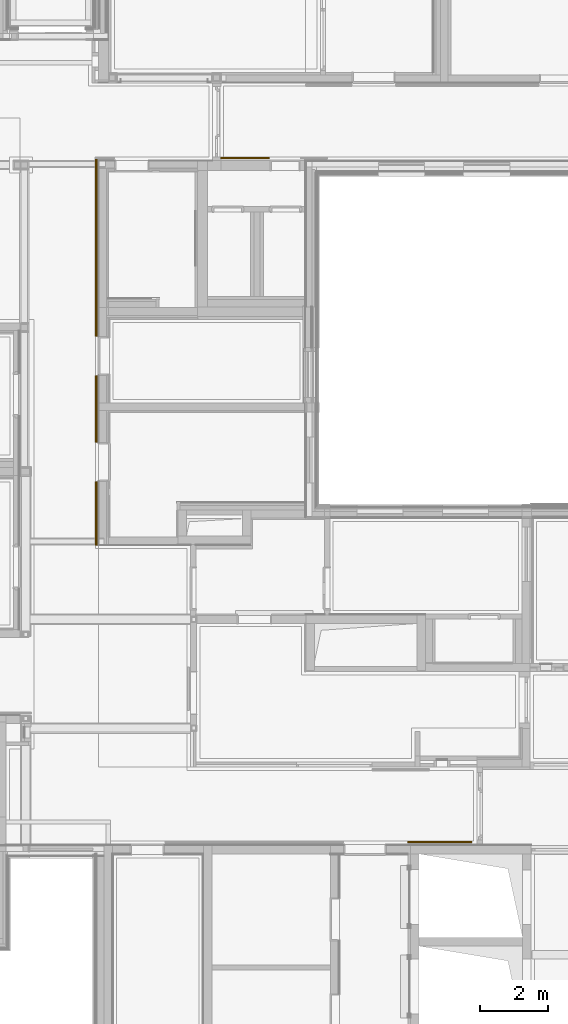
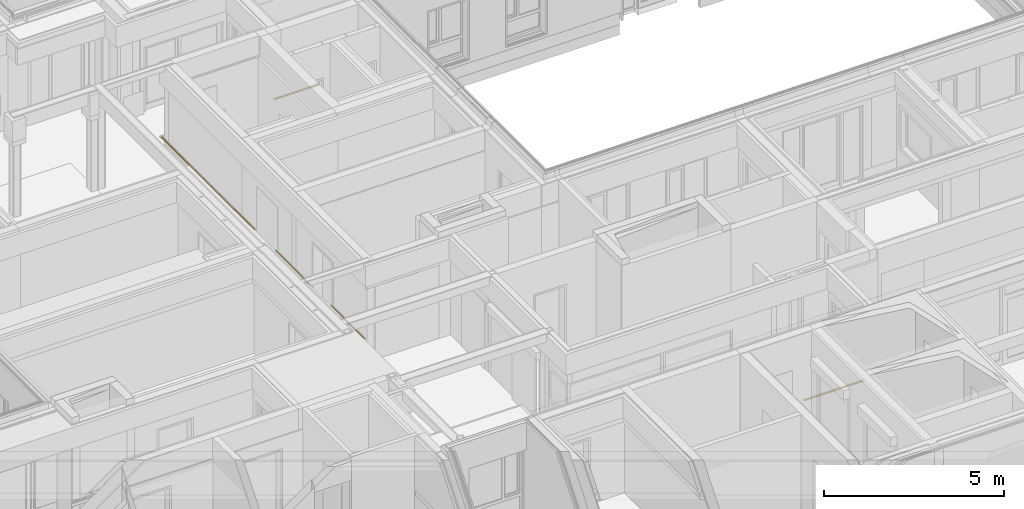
# One storey, part 197 of 207: 5 railings, 5 elements without a shape of their own.
"""IFC4 building model written with IfcOpenShell, lengths in metres."""

from ifc_helpers import new_model, entity, si_unit, converted_unit, derived_unit, frame, origin, place, context, subcontext, project, spatial, faceted_brep, material, element, aggregate, save


model = new_model("IFC4")

# Units and contexts
model_context = context("Model", 3, precision=1e-05, world=origin())
body_context = subcontext(model_context, "Body", "Model", "MODEL_VIEW")
ifc_project = project(units=[si_unit("LENGTHUNIT", "METRE"), si_unit("AREAUNIT", "SQUARE_METRE"), si_unit("VOLUMEUNIT", "CUBIC_METRE"), si_unit("MASSUNIT", "GRAM", prefix="KILO"), converted_unit("PLANEANGLEUNIT", "DEGREE", entity("IfcPlaneAngleMeasure", 0.0174532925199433), si_unit("PLANEANGLEUNIT", "RADIAN"), dimensions=[0, 0, 0, 0, 0, 0, 0]), derived_unit("THERMALTRANSMITTANCEUNIT", [(si_unit("POWERUNIT", "WATT"), 1), (si_unit("THERMODYNAMICTEMPERATUREUNIT", "KELVIN"), -1), (si_unit("LENGTHUNIT", "METRE"), -2)]), derived_unit("VOLUMETRICFLOWRATEUNIT", [(si_unit("LENGTHUNIT", "METRE"), 3), (converted_unit("TIMEUNIT", "hour", entity("IfcTimeMeasure", 3600.0), si_unit("TIMEUNIT", "SECOND"), dimensions=[0, 0, 1, 0, 0, 0, 0]), -1), (si_unit("LENGTHUNIT", "METRE"), -1)])], contexts=[model_context])

# Site, building, storey
site_placement = place(None, origin())
site = spatial("IfcSite", under=ifc_project, at=site_placement, Name="Psychiatrie Neubau Wunstorf", CompositionType="ELEMENT")
building_placement = place(site_placement, origin())
building = spatial("IfcBuilding", under=site, at=building_placement, Name="Neubau H2 Stationsgebäude", CompositionType="ELEMENT")
storey_placement = place(building_placement, frame((0.0, 0.0, -0.2)))
storey = spatial("IfcBuildingStorey", under=building, at=storey_placement, Name="H2 Ebene 0", CompositionType="ELEMENT", Elevation=-0.2)

# Assembly, railing
assembly_1_placement = place(storey_placement, frame((0.0, 0.0, 0.2)))
assembly_1 = element("IfcElementAssembly", 1, at=assembly_1_placement, inside=storey, Name="Geländer+Abstand", PredefinedType="NOTDEFINED")
ifc_material_1 = material(Name="Holz")
railing_1_placement = place(assembly_1_placement, frame((46.9300048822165, 0.598999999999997, 0.8)))
railing_1 = element("IfcRailing", 2, at=railing_1_placement, material=ifc_material_1, context=body_context, shape_type="Brep", body=[
    faceted_brep([(1.88469511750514, 0.000103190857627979, 0.025), (1.88469511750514, 0.000481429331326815, 0.0293232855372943), (1.88469511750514, 0.00160465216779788, 0.0335152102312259), (1.88469511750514, 0.00343873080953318, 0.0374484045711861), (1.88469511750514, 0.00592793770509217, 0.0410033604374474), (1.88469511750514, 0.00899663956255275, 0.0440720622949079), (1.88469511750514, 0.012551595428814, 0.0465612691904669), (1.88469511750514, 0.0164847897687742, 0.0483953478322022), (1.88469511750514, 0.0206767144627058, 0.0495185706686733), (1.88469511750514, 0.0250000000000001, 0.0498968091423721), (1.88469511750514, 0.0293232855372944, 0.0495185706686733), (1.88469511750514, 0.033515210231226, 0.0483953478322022), (1.88469511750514, 0.0374484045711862, 0.0465612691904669), (1.88469511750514, 0.0410033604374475, 0.0440720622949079), (1.88469511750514, 0.0440720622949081, 0.0410033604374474), (1.88469511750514, 0.0465612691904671, 0.0374484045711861), (1.88469511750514, 0.0483953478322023, 0.0335152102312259), (1.88469511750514, 0.0495185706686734, 0.0293232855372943), (1.88469511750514, 0.0498968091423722, 0.025), (1.88469511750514, 0.0495185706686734, 0.0206767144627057), (1.88469511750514, 0.0483953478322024, 0.0164847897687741), (1.88469511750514, 0.046561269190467, 0.0125515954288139), (1.88469511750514, 0.0440720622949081, 0.00899663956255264), (1.88469511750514, 0.0410033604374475, 0.00592793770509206), (1.88469511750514, 0.0374484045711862, 0.00343873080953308), (1.88469511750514, 0.033515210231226, 0.00160465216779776), (1.88469511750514, 0.0293232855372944, 0.000481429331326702), (1.88469511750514, 0.0250000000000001, 0.000103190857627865), (1.88469511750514, 0.0206767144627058, 0.000481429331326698), (1.88469511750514, 0.0164847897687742, 0.00160465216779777), (1.88469511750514, 0.012551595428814, 0.00343873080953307), (1.88469511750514, 0.00899663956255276, 0.00592793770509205), (1.88469511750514, 0.00592793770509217, 0.00899663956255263), (1.88469511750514, 0.00343873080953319, 0.0125515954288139), (1.88469511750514, 0.00160465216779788, 0.0164847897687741), (1.88469511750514, 0.000481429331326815, 0.0206767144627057), (0.0, 0.000103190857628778, 0.025), (0.0, 0.000481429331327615, 0.0206767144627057), (0.0, 0.00160465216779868, 0.0164847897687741), (0.0, 0.00343873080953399, 0.0125515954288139), (0.0, 0.00592793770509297, 0.00899663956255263), (0.0, 0.00899663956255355, 0.00592793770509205), (0.0, 0.0125515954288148, 0.00343873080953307), (0.0, 0.016484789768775, 0.00160465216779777), (0.0, 0.0206767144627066, 0.000481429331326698), (0.0, 0.0250000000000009, 0.000103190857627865), (0.0, 0.0293232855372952, 0.000481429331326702), (0.0, 0.0335152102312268, 0.00160465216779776), (0.0, 0.037448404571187, 0.00343873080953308), (0.0, 0.0410033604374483, 0.00592793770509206), (0.0, 0.0440720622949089, 0.00899663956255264), (0.0, 0.0465612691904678, 0.0125515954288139), (0.0, 0.0483953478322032, 0.0164847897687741), (0.0, 0.0495185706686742, 0.0206767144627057), (0.0, 0.049896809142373, 0.025), (0.0, 0.0495185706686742, 0.0293232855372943), (0.0, 0.0483953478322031, 0.0335152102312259), (0.0, 0.0465612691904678, 0.0374484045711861), (0.0, 0.0440720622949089, 0.0410033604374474), (0.0, 0.0410033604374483, 0.0440720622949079), (0.0, 0.037448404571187, 0.0465612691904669), (0.0, 0.0335152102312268, 0.0483953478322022), (0.0, 0.0293232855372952, 0.0495185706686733), (0.0, 0.0250000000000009, 0.0498968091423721), (0.0, 0.0206767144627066, 0.0495185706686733), (0.0, 0.016484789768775, 0.0483953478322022), (0.0, 0.0125515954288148, 0.0465612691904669), (0.0, 0.00899663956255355, 0.0440720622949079), (0.0, 0.00592793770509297, 0.0410033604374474), (0.0, 0.00343873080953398, 0.0374484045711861), (0.0, 0.00160465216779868, 0.0335152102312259), (0.0, 0.000481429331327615, 0.0293232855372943)], [[[0, 1, 2, 3, 4, 5, 6, 7, 8, 9, 10, 11, 12, 13, 14, 15, 16, 17, 18, 19, 20, 21, 22, 23, 24, 25, 26, 27, 28, 29, 30, 31, 32, 33, 34, 35]], [[36, 37, 38, 39, 40, 41, 42, 43, 44, 45, 46, 47, 48, 49, 50, 51, 52, 53, 54, 55, 56, 57, 58, 59, 60, 61, 62, 63, 64, 65, 66, 67, 68, 69, 70, 71]], [[1, 0, 36, 71]], [[2, 1, 71, 70]], [[3, 2, 70, 69]], [[4, 3, 69, 68]], [[5, 4, 68, 67]], [[6, 5, 67, 66]], [[7, 6, 66, 65]], [[8, 7, 65, 64]], [[9, 8, 64, 63]], [[10, 9, 63, 62]], [[11, 10, 62, 61]], [[12, 11, 61, 60]], [[13, 12, 60, 59]], [[14, 13, 59, 58]], [[15, 14, 58, 57]], [[16, 15, 57, 56]], [[17, 16, 56, 55]], [[18, 17, 55, 54]], [[19, 18, 54, 53]], [[20, 19, 53, 52]], [[21, 20, 52, 51]], [[22, 21, 51, 50]], [[23, 22, 50, 49]], [[24, 23, 49, 48]], [[25, 24, 48, 47]], [[26, 25, 47, 46]], [[27, 26, 46, 45]], [[28, 27, 45, 44]], [[29, 28, 44, 43]], [[30, 29, 43, 42]], [[31, 30, 42, 41]], [[32, 31, 41, 40]], [[33, 32, 40, 39]], [[34, 33, 39, 38]], [[35, 34, 38, 37]], [[0, 35, 37, 36]]], orient=[[False], [False], [False], [False], [False], [False], [False], [False], [False], [False], [False], [False], [False], [False], [False], [False], [False], [False], [False], [False], [False], [False], [False], [False], [False], [False], [False], [False], [False], [False], [False], [False], [False], [False], [False], [False], [False], [False]]),
])
aggregate(assembly_1, [railing_1])

assembly_2_placement = place(storey_placement, frame((0.0, 0.0, 0.2)))
assembly_2 = element("IfcElementAssembly", 3, at=assembly_2_placement, inside=storey, Name="Geländer+Abstand", PredefinedType="NOTDEFINED")
ifc_material_2 = material(Name="Holz")
railing_2_placement = place(assembly_2_placement, frame((37.7825, 15.4400000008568, 0.8)))
railing_2 = element("IfcRailing", 4, at=railing_2_placement, material=ifc_material_2, context=body_context, shape_type="Brep", body=[
    faceted_brep([(0.025, 5.19599802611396, 0.000103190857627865), (0.0293232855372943, 5.19599802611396, 0.000481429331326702), (0.0335152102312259, 5.19599802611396, 0.00160465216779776), (0.0374484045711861, 5.19599802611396, 0.00343873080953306), (0.0410033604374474, 5.19599802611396, 0.00592793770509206), (0.0440720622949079, 5.19599802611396, 0.00899663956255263), (0.0465612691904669, 5.19599802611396, 0.0125515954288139), (0.0483953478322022, 5.19599802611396, 0.0164847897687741), (0.0495185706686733, 5.19599802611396, 0.0206767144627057), (0.0498968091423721, 5.19599802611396, 0.025), (0.0495185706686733, 5.19599802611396, 0.0293232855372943), (0.0483953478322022, 5.19599802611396, 0.0335152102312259), (0.0465612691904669, 5.19599802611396, 0.0374484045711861), (0.0440720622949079, 5.19599802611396, 0.0410033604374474), (0.0410033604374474, 5.19599802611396, 0.0440720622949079), (0.0374484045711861, 5.19599802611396, 0.0465612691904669), (0.0335152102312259, 5.19599802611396, 0.0483953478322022), (0.0293232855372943, 5.19599802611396, 0.0495185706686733), (0.025, 5.19599802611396, 0.0498968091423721), (0.0206767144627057, 5.19599802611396, 0.0495185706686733), (0.0164847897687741, 5.19599802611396, 0.0483953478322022), (0.0125515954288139, 5.19599802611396, 0.0465612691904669), (0.00899663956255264, 5.19599802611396, 0.044072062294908), (0.00592793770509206, 5.19599802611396, 0.0410033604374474), (0.00343873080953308, 5.19599802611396, 0.0374484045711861), (0.00160465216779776, 5.19599802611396, 0.0335152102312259), (0.000481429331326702, 5.19599802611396, 0.0293232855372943), (0.000103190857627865, 5.19599802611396, 0.025), (0.000481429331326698, 5.19599802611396, 0.0206767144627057), (0.00160465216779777, 5.19599802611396, 0.0164847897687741), (0.00343873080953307, 5.19599802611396, 0.0125515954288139), (0.00592793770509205, 5.19599802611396, 0.00899663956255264), (0.00899663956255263, 5.19599802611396, 0.00592793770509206), (0.0125515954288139, 5.19599802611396, 0.00343873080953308), (0.0164847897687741, 5.19599802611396, 0.00160465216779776), (0.0206767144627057, 5.19599802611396, 0.000481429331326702), (0.025, 0.0, 0.000103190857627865), (0.0206767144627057, 0.0, 0.000481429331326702), (0.0164847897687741, 0.0, 0.00160465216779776), (0.0125515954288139, 0.0, 0.00343873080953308), (0.00899663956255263, 0.0, 0.00592793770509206), (0.00592793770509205, 0.0, 0.00899663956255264), (0.00343873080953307, 0.0, 0.0125515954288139), (0.00160465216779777, 0.0, 0.0164847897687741), (0.000481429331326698, 0.0, 0.0206767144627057), (0.000103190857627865, 0.0, 0.025), (0.000481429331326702, 0.0, 0.0293232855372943), (0.00160465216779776, 0.0, 0.0335152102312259), (0.00343873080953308, 0.0, 0.0374484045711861), (0.00592793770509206, 0.0, 0.0410033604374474), (0.00899663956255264, 0.0, 0.044072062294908), (0.0125515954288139, 0.0, 0.0465612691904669), (0.0164847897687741, 0.0, 0.0483953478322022), (0.0206767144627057, 0.0, 0.0495185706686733), (0.025, 0.0, 0.0498968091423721), (0.0293232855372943, 0.0, 0.0495185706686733), (0.0335152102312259, 0.0, 0.0483953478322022), (0.0374484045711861, 0.0, 0.0465612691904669), (0.0410033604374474, 0.0, 0.0440720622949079), (0.0440720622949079, 0.0, 0.0410033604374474), (0.0465612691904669, 0.0, 0.0374484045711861), (0.0483953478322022, 0.0, 0.0335152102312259), (0.0495185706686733, 0.0, 0.0293232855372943), (0.0498968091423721, 0.0, 0.025), (0.0495185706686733, 0.0, 0.0206767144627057), (0.0483953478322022, 0.0, 0.0164847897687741), (0.0465612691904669, 0.0, 0.0125515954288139), (0.0440720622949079, 0.0, 0.00899663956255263), (0.0410033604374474, 0.0, 0.00592793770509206), (0.0374484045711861, 0.0, 0.00343873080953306), (0.0335152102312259, 0.0, 0.00160465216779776), (0.0293232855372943, 0.0, 0.000481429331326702)], [[[0, 1, 2, 3, 4, 5, 6, 7, 8, 9, 10, 11, 12, 13, 14, 15, 16, 17, 18, 19, 20, 21, 22, 23, 24, 25, 26, 27, 28, 29, 30, 31, 32, 33, 34, 35]], [[36, 37, 38, 39, 40, 41, 42, 43, 44, 45, 46, 47, 48, 49, 50, 51, 52, 53, 54, 55, 56, 57, 58, 59, 60, 61, 62, 63, 64, 65, 66, 67, 68, 69, 70, 71]], [[1, 0, 36, 71]], [[2, 1, 71, 70]], [[3, 2, 70, 69]], [[4, 3, 69, 68]], [[5, 4, 68, 67]], [[6, 5, 67, 66]], [[7, 6, 66, 65]], [[8, 7, 65, 64]], [[9, 8, 64, 63]], [[10, 9, 63, 62]], [[11, 10, 62, 61]], [[12, 11, 61, 60]], [[13, 12, 60, 59]], [[14, 13, 59, 58]], [[15, 14, 58, 57]], [[16, 15, 57, 56]], [[17, 16, 56, 55]], [[18, 17, 55, 54]], [[19, 18, 54, 53]], [[20, 19, 53, 52]], [[21, 20, 52, 51]], [[22, 21, 51, 50]], [[23, 22, 50, 49]], [[24, 23, 49, 48]], [[25, 24, 48, 47]], [[26, 25, 47, 46]], [[27, 26, 46, 45]], [[28, 27, 45, 44]], [[29, 28, 44, 43]], [[30, 29, 43, 42]], [[31, 30, 42, 41]], [[32, 31, 41, 40]], [[33, 32, 40, 39]], [[34, 33, 39, 38]], [[35, 34, 38, 37]], [[0, 35, 37, 36]]], orient=[[False], [False], [False], [False], [False], [False], [False], [False], [False], [False], [False], [False], [False], [False], [False], [False], [False], [False], [False], [False], [False], [False], [False], [False], [False], [False], [False], [False], [False], [False], [False], [False], [False], [False], [False], [False], [False], [False]]),
])
aggregate(assembly_2, [railing_2])

assembly_3_placement = place(storey_placement, frame((0.0, 0.0, 0.2)))
assembly_3 = element("IfcElementAssembly", 5, at=assembly_3_placement, inside=storey, Name="Geländer+Abstand", PredefinedType="NOTDEFINED")
ifc_material_3 = material(Name="Holz")
railing_3_placement = place(assembly_3_placement, frame((37.7825, 9.32399624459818, 0.8)))
railing_3 = element("IfcRailing", 6, at=railing_3_placement, material=ifc_material_3, context=body_context, shape_type="Brep", body=[
    faceted_brep([(0.025, 1.85100344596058, 0.000103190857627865), (0.0293232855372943, 1.85100344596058, 0.000481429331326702), (0.0335152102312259, 1.85100344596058, 0.00160465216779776), (0.0374484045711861, 1.85100344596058, 0.00343873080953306), (0.0410033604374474, 1.85100344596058, 0.00592793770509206), (0.0440720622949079, 1.85100344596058, 0.00899663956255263), (0.0465612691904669, 1.85100344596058, 0.0125515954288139), (0.0483953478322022, 1.85100344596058, 0.0164847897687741), (0.0495185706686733, 1.85100344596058, 0.0206767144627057), (0.0498968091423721, 1.85100344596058, 0.025), (0.0495185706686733, 1.85100344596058, 0.0293232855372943), (0.0483953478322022, 1.85100344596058, 0.0335152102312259), (0.0465612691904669, 1.85100344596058, 0.0374484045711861), (0.0440720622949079, 1.85100344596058, 0.0410033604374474), (0.0410033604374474, 1.85100344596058, 0.0440720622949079), (0.0374484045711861, 1.85100344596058, 0.0465612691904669), (0.0335152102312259, 1.85100344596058, 0.0483953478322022), (0.0293232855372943, 1.85100344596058, 0.0495185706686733), (0.025, 1.85100344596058, 0.0498968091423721), (0.0206767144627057, 1.85100344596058, 0.0495185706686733), (0.0164847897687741, 1.85100344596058, 0.0483953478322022), (0.0125515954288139, 1.85100344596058, 0.0465612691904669), (0.00899663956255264, 1.85100344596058, 0.044072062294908), (0.00592793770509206, 1.85100344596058, 0.0410033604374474), (0.00343873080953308, 1.85100344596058, 0.0374484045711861), (0.00160465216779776, 1.85100344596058, 0.0335152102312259), (0.000481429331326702, 1.85100344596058, 0.0293232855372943), (0.000103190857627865, 1.85100344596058, 0.025), (0.000481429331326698, 1.85100344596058, 0.0206767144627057), (0.00160465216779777, 1.85100344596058, 0.0164847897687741), (0.00343873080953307, 1.85100344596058, 0.0125515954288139), (0.00592793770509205, 1.85100344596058, 0.00899663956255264), (0.00899663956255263, 1.85100344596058, 0.00592793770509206), (0.0125515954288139, 1.85100344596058, 0.00343873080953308), (0.0164847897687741, 1.85100344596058, 0.00160465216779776), (0.0206767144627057, 1.85100344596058, 0.000481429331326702), (0.025, 0.0, 0.000103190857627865), (0.0206767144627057, 0.0, 0.000481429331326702), (0.0164847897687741, 0.0, 0.00160465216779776), (0.0125515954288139, 0.0, 0.00343873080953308), (0.00899663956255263, 0.0, 0.00592793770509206), (0.00592793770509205, 0.0, 0.00899663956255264), (0.00343873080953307, 0.0, 0.0125515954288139), (0.00160465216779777, 0.0, 0.0164847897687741), (0.000481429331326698, 0.0, 0.0206767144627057), (0.000103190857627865, 0.0, 0.025), (0.000481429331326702, 0.0, 0.0293232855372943), (0.00160465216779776, 0.0, 0.0335152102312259), (0.00343873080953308, 0.0, 0.0374484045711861), (0.00592793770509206, 0.0, 0.0410033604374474), (0.00899663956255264, 0.0, 0.044072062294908), (0.0125515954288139, 0.0, 0.0465612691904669), (0.0164847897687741, 0.0, 0.0483953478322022), (0.0206767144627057, 0.0, 0.0495185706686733), (0.025, 0.0, 0.0498968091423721), (0.0293232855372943, 0.0, 0.0495185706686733), (0.0335152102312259, 0.0, 0.0483953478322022), (0.0374484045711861, 0.0, 0.0465612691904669), (0.0410033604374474, 0.0, 0.0440720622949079), (0.0440720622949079, 0.0, 0.0410033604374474), (0.0465612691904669, 0.0, 0.0374484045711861), (0.0483953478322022, 0.0, 0.0335152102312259), (0.0495185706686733, 0.0, 0.0293232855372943), (0.0498968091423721, 0.0, 0.025), (0.0495185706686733, 0.0, 0.0206767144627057), (0.0483953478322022, 0.0, 0.0164847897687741), (0.0465612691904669, 0.0, 0.0125515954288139), (0.0440720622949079, 0.0, 0.00899663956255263), (0.0410033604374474, 0.0, 0.00592793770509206), (0.0374484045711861, 0.0, 0.00343873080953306), (0.0335152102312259, 0.0, 0.00160465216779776), (0.0293232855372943, 0.0, 0.000481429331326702)], [[[0, 1, 2, 3, 4, 5, 6, 7, 8, 9, 10, 11, 12, 13, 14, 15, 16, 17, 18, 19, 20, 21, 22, 23, 24, 25, 26, 27, 28, 29, 30, 31, 32, 33, 34, 35]], [[36, 37, 38, 39, 40, 41, 42, 43, 44, 45, 46, 47, 48, 49, 50, 51, 52, 53, 54, 55, 56, 57, 58, 59, 60, 61, 62, 63, 64, 65, 66, 67, 68, 69, 70, 71]], [[1, 0, 36, 71]], [[2, 1, 71, 70]], [[3, 2, 70, 69]], [[4, 3, 69, 68]], [[5, 4, 68, 67]], [[6, 5, 67, 66]], [[7, 6, 66, 65]], [[8, 7, 65, 64]], [[9, 8, 64, 63]], [[10, 9, 63, 62]], [[11, 10, 62, 61]], [[12, 11, 61, 60]], [[13, 12, 60, 59]], [[14, 13, 59, 58]], [[15, 14, 58, 57]], [[16, 15, 57, 56]], [[17, 16, 56, 55]], [[18, 17, 55, 54]], [[19, 18, 54, 53]], [[20, 19, 53, 52]], [[21, 20, 52, 51]], [[22, 21, 51, 50]], [[23, 22, 50, 49]], [[24, 23, 49, 48]], [[25, 24, 48, 47]], [[26, 25, 47, 46]], [[27, 26, 46, 45]], [[28, 27, 45, 44]], [[29, 28, 44, 43]], [[30, 29, 43, 42]], [[31, 30, 42, 41]], [[32, 31, 41, 40]], [[33, 32, 40, 39]], [[34, 33, 39, 38]], [[35, 34, 38, 37]], [[0, 35, 37, 36]]], orient=[[False], [False], [False], [False], [False], [False], [False], [False], [False], [False], [False], [False], [False], [False], [False], [False], [False], [False], [False], [False], [False], [False], [False], [False], [False], [False], [False], [False], [False], [False], [False], [False], [False], [False], [False], [False], [False], [False]]),
])
aggregate(assembly_3, [railing_3])

assembly_4_placement = place(storey_placement, frame((0.0, 0.0, 0.2)))
assembly_4 = element("IfcElementAssembly", 7, at=assembly_4_placement, inside=storey, Name="Geländer+Abstand", PredefinedType="NOTDEFINED")
ifc_material_4 = material(Name="Holz")
railing_4_placement = place(assembly_4_placement, frame((37.7825, 12.3399996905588, 0.8)))
railing_4 = element("IfcRailing", 8, at=railing_4_placement, material=ifc_material_4, context=body_context, shape_type="Brep", body=[
    faceted_brep([(0.025, 1.93500031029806, 0.000103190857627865), (0.0293232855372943, 1.93500031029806, 0.000481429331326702), (0.0335152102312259, 1.93500031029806, 0.00160465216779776), (0.0374484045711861, 1.93500031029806, 0.00343873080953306), (0.0410033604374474, 1.93500031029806, 0.00592793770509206), (0.0440720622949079, 1.93500031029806, 0.00899663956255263), (0.0465612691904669, 1.93500031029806, 0.0125515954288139), (0.0483953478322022, 1.93500031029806, 0.0164847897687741), (0.0495185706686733, 1.93500031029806, 0.0206767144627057), (0.0498968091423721, 1.93500031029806, 0.025), (0.0495185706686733, 1.93500031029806, 0.0293232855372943), (0.0483953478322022, 1.93500031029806, 0.0335152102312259), (0.0465612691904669, 1.93500031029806, 0.0374484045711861), (0.0440720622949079, 1.93500031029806, 0.0410033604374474), (0.0410033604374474, 1.93500031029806, 0.0440720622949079), (0.0374484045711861, 1.93500031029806, 0.0465612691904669), (0.0335152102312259, 1.93500031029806, 0.0483953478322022), (0.0293232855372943, 1.93500031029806, 0.0495185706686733), (0.025, 1.93500031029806, 0.0498968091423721), (0.0206767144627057, 1.93500031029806, 0.0495185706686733), (0.0164847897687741, 1.93500031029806, 0.0483953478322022), (0.0125515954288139, 1.93500031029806, 0.0465612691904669), (0.00899663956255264, 1.93500031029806, 0.044072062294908), (0.00592793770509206, 1.93500031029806, 0.0410033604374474), (0.00343873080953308, 1.93500031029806, 0.0374484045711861), (0.00160465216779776, 1.93500031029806, 0.0335152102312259), (0.000481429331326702, 1.93500031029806, 0.0293232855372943), (0.000103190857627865, 1.93500031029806, 0.025), (0.000481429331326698, 1.93500031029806, 0.0206767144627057), (0.00160465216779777, 1.93500031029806, 0.0164847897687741), (0.00343873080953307, 1.93500031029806, 0.0125515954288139), (0.00592793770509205, 1.93500031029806, 0.00899663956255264), (0.00899663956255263, 1.93500031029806, 0.00592793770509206), (0.0125515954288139, 1.93500031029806, 0.00343873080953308), (0.0164847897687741, 1.93500031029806, 0.00160465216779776), (0.0206767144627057, 1.93500031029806, 0.000481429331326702), (0.025, 0.0, 0.000103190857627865), (0.0206767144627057, 0.0, 0.000481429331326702), (0.0164847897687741, 0.0, 0.00160465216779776), (0.0125515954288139, 0.0, 0.00343873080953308), (0.00899663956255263, 0.0, 0.00592793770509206), (0.00592793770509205, 0.0, 0.00899663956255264), (0.00343873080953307, 0.0, 0.0125515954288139), (0.00160465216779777, 0.0, 0.0164847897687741), (0.000481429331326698, 0.0, 0.0206767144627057), (0.000103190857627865, 0.0, 0.025), (0.000481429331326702, 0.0, 0.0293232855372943), (0.00160465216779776, 0.0, 0.0335152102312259), (0.00343873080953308, 0.0, 0.0374484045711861), (0.00592793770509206, 0.0, 0.0410033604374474), (0.00899663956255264, 0.0, 0.044072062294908), (0.0125515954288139, 0.0, 0.0465612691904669), (0.0164847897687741, 0.0, 0.0483953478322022), (0.0206767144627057, 0.0, 0.0495185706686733), (0.025, 0.0, 0.0498968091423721), (0.0293232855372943, 0.0, 0.0495185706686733), (0.0335152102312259, 0.0, 0.0483953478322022), (0.0374484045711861, 0.0, 0.0465612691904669), (0.0410033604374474, 0.0, 0.0440720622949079), (0.0440720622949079, 0.0, 0.0410033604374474), (0.0465612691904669, 0.0, 0.0374484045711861), (0.0483953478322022, 0.0, 0.0335152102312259), (0.0495185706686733, 0.0, 0.0293232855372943), (0.0498968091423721, 0.0, 0.025), (0.0495185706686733, 0.0, 0.0206767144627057), (0.0483953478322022, 0.0, 0.0164847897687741), (0.0465612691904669, 0.0, 0.0125515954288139), (0.0440720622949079, 0.0, 0.00899663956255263), (0.0410033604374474, 0.0, 0.00592793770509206), (0.0374484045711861, 0.0, 0.00343873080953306), (0.0335152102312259, 0.0, 0.00160465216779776), (0.0293232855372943, 0.0, 0.000481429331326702)], [[[0, 1, 2, 3, 4, 5, 6, 7, 8, 9, 10, 11, 12, 13, 14, 15, 16, 17, 18, 19, 20, 21, 22, 23, 24, 25, 26, 27, 28, 29, 30, 31, 32, 33, 34, 35]], [[36, 37, 38, 39, 40, 41, 42, 43, 44, 45, 46, 47, 48, 49, 50, 51, 52, 53, 54, 55, 56, 57, 58, 59, 60, 61, 62, 63, 64, 65, 66, 67, 68, 69, 70, 71]], [[1, 0, 36, 71]], [[2, 1, 71, 70]], [[3, 2, 70, 69]], [[4, 3, 69, 68]], [[5, 4, 68, 67]], [[6, 5, 67, 66]], [[7, 6, 66, 65]], [[8, 7, 65, 64]], [[9, 8, 64, 63]], [[10, 9, 63, 62]], [[11, 10, 62, 61]], [[12, 11, 61, 60]], [[13, 12, 60, 59]], [[14, 13, 59, 58]], [[15, 14, 58, 57]], [[16, 15, 57, 56]], [[17, 16, 56, 55]], [[18, 17, 55, 54]], [[19, 18, 54, 53]], [[20, 19, 53, 52]], [[21, 20, 52, 51]], [[22, 21, 51, 50]], [[23, 22, 50, 49]], [[24, 23, 49, 48]], [[25, 24, 48, 47]], [[26, 25, 47, 46]], [[27, 26, 46, 45]], [[28, 27, 45, 44]], [[29, 28, 44, 43]], [[30, 29, 43, 42]], [[31, 30, 42, 41]], [[32, 31, 41, 40]], [[33, 32, 40, 39]], [[34, 33, 39, 38]], [[35, 34, 38, 37]], [[0, 35, 37, 36]]], orient=[[False], [False], [False], [False], [False], [False], [False], [False], [False], [False], [False], [False], [False], [False], [False], [False], [False], [False], [False], [False], [False], [False], [False], [False], [False], [False], [False], [False], [False], [False], [False], [False], [False], [False], [False], [False], [False], [False]]),
])
aggregate(assembly_4, [railing_4])

assembly_5_placement = place(storey_placement, frame((0.0, 0.0, 0.2)))
assembly_5 = element("IfcElementAssembly", 9, at=assembly_5_placement, inside=storey, Name="Geländer+Abstand", PredefinedType="NOTDEFINED")
ifc_material_5 = material(Name="Holz")
railing_5_placement = place(assembly_5_placement, frame((41.458, 20.6359980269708, 0.8)))
railing_5 = element("IfcRailing", 10, at=railing_5_placement, material=ifc_material_5, context=body_context, shape_type="Brep", body=[
    faceted_brep([(1.42602311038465, 0.000103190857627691, 0.025), (1.42602311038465, 0.000481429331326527, 0.0293232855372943), (1.42602311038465, 0.00160465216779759, 0.0335152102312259), (1.42602311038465, 0.00343873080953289, 0.0374484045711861), (1.42602311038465, 0.00592793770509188, 0.0410033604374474), (1.42602311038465, 0.00899663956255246, 0.0440720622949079), (1.42602311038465, 0.0125515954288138, 0.0465612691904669), (1.42602311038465, 0.0164847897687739, 0.0483953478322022), (1.42602311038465, 0.0206767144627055, 0.0495185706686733), (1.42602311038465, 0.0249999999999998, 0.0498968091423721), (1.42602311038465, 0.0293232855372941, 0.0495185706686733), (1.42602311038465, 0.0335152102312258, 0.0483953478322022), (1.42602311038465, 0.0374484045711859, 0.0465612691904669), (1.42602311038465, 0.0410033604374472, 0.0440720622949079), (1.42602311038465, 0.0440720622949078, 0.0410033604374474), (1.42602311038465, 0.0465612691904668, 0.0374484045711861), (1.42602311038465, 0.0483953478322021, 0.0335152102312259), (1.42602311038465, 0.0495185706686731, 0.0293232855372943), (1.42602311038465, 0.049896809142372, 0.025), (1.42602311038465, 0.0495185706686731, 0.0206767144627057), (1.42602311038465, 0.0483953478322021, 0.0164847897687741), (1.42602311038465, 0.0465612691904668, 0.0125515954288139), (1.42602311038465, 0.0440720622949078, 0.00899663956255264), (1.42602311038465, 0.0410033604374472, 0.00592793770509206), (1.42602311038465, 0.0374484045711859, 0.00343873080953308), (1.42602311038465, 0.0335152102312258, 0.00160465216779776), (1.42602311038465, 0.0293232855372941, 0.000481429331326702), (1.42602311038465, 0.0249999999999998, 0.000103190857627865), (1.42602311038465, 0.0206767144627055, 0.000481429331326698), (1.42602311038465, 0.0164847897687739, 0.00160465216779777), (1.42602311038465, 0.0125515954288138, 0.00343873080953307), (1.42602311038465, 0.00899663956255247, 0.00592793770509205), (1.42602311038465, 0.00592793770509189, 0.00899663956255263), (1.42602311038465, 0.0034387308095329, 0.0125515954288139), (1.42602311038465, 0.00160465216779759, 0.0164847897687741), (1.42602311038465, 0.000481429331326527, 0.0206767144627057), (0.0, 0.00010319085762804, 0.025), (0.0, 0.000481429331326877, 0.0206767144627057), (0.0, 0.00160465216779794, 0.0164847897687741), (0.0, 0.00343873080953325, 0.0125515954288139), (0.0, 0.00592793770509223, 0.00899663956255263), (0.0, 0.00899663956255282, 0.00592793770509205), (0.0, 0.0125515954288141, 0.00343873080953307), (0.0, 0.0164847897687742, 0.00160465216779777), (0.0, 0.0206767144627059, 0.000481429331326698), (0.0, 0.0250000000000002, 0.000103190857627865), (0.0, 0.0293232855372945, 0.000481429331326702), (0.0, 0.0335152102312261, 0.00160465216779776), (0.0, 0.0374484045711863, 0.00343873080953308), (0.0, 0.0410033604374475, 0.00592793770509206), (0.0, 0.0440720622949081, 0.00899663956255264), (0.0, 0.0465612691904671, 0.0125515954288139), (0.0, 0.0483953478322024, 0.0164847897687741), (0.0, 0.0495185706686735, 0.0206767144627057), (0.0, 0.0498968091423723, 0.025), (0.0, 0.0495185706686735, 0.0293232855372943), (0.0, 0.0483953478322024, 0.0335152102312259), (0.0, 0.0465612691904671, 0.0374484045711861), (0.0, 0.0440720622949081, 0.0410033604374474), (0.0, 0.0410033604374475, 0.0440720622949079), (0.0, 0.0374484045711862, 0.0465612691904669), (0.0, 0.0335152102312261, 0.0483953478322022), (0.0, 0.0293232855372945, 0.0495185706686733), (0.0, 0.0250000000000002, 0.0498968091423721), (0.0, 0.0206767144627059, 0.0495185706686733), (0.0, 0.0164847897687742, 0.0483953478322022), (0.0, 0.0125515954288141, 0.0465612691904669), (0.0, 0.00899663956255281, 0.0440720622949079), (0.0, 0.00592793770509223, 0.0410033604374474), (0.0, 0.00343873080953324, 0.0374484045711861), (0.0, 0.00160465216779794, 0.0335152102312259), (0.0, 0.000481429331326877, 0.0293232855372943)], [[[0, 1, 2, 3, 4, 5, 6, 7, 8, 9, 10, 11, 12, 13, 14, 15, 16, 17, 18, 19, 20, 21, 22, 23, 24, 25, 26, 27, 28, 29, 30, 31, 32, 33, 34, 35]], [[36, 37, 38, 39, 40, 41, 42, 43, 44, 45, 46, 47, 48, 49, 50, 51, 52, 53, 54, 55, 56, 57, 58, 59, 60, 61, 62, 63, 64, 65, 66, 67, 68, 69, 70, 71]], [[1, 0, 36, 71]], [[2, 1, 71, 70]], [[3, 2, 70, 69]], [[4, 3, 69, 68]], [[5, 4, 68, 67]], [[6, 5, 67, 66]], [[7, 6, 66, 65]], [[8, 7, 65, 64]], [[9, 8, 64, 63]], [[10, 9, 63, 62]], [[11, 10, 62, 61]], [[12, 11, 61, 60]], [[13, 12, 60, 59]], [[14, 13, 59, 58]], [[15, 14, 58, 57]], [[16, 15, 57, 56]], [[17, 16, 56, 55]], [[18, 17, 55, 54]], [[19, 18, 54, 53]], [[20, 19, 53, 52]], [[21, 20, 52, 51]], [[22, 21, 51, 50]], [[23, 22, 50, 49]], [[24, 23, 49, 48]], [[25, 24, 48, 47]], [[26, 25, 47, 46]], [[27, 26, 46, 45]], [[28, 27, 45, 44]], [[29, 28, 44, 43]], [[30, 29, 43, 42]], [[31, 30, 42, 41]], [[32, 31, 41, 40]], [[33, 32, 40, 39]], [[34, 33, 39, 38]], [[35, 34, 38, 37]], [[0, 35, 37, 36]]], orient=[[False], [False], [False], [False], [False], [False], [False], [False], [False], [False], [False], [False], [False], [False], [False], [False], [False], [False], [False], [False], [False], [False], [False], [False], [False], [False], [False], [False], [False], [False], [False], [False], [False], [False], [False], [False], [False], [False]]),
])
aggregate(assembly_5, [railing_5])

save(model, "model.ifc")
